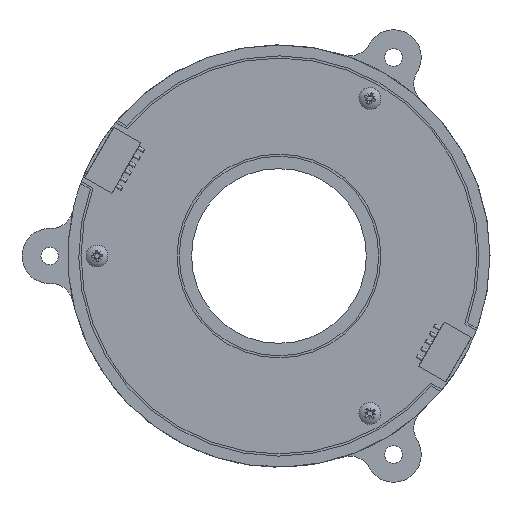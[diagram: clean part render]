
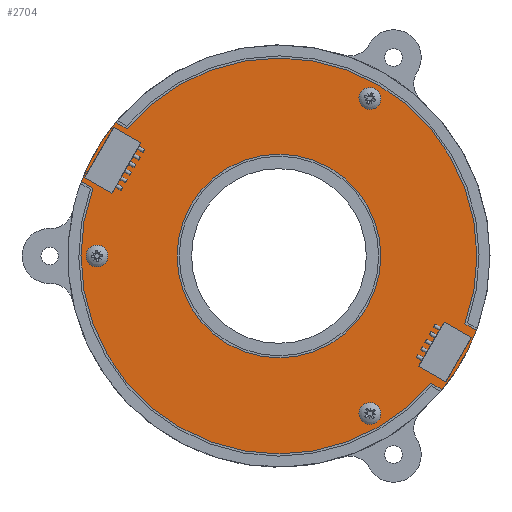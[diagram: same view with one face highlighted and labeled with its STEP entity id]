
A CAD part, left-side view. The second image highlights one B-rep face of the part: STEP entity #2704.
In plain terms, the highlighted planar face has unit normal (-1, 0, 0) as drawn and (0, 0, 1) by its records, which use the part's own axes.
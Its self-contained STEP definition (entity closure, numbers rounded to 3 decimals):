
#2704=ADVANCED_FACE('',(#14447,#14449,#14451,#14453,#14455),#14457,.T.);
#14447=FACE_BOUND('',#14448,.T.);
#14448=EDGE_LOOP('',(#24301,#24302,#24303,#24304,#24305,#24306,#24307,#24308));
#14449=FACE_BOUND('',#14450,.T.);
#14450=EDGE_LOOP('',(#24309));
#14451=FACE_BOUND('',#14452,.T.);
#14452=EDGE_LOOP('',(#24310));
#14453=FACE_BOUND('',#14454,.T.);
#14454=EDGE_LOOP('',(#24311));
#14455=FACE_BOUND('',#14456,.T.);
#14456=EDGE_LOOP('',(#24312));
#14457=PLANE('',#14458);
#14458=AXIS2_PLACEMENT_3D('',#14459,#14460,#14461);
#14459=CARTESIAN_POINT('',(0.,0.,1.6));
#14460=DIRECTION('',(0.,0.,1.));
#14461=DIRECTION('',(1.,0.,0.));
#24301=ORIENTED_EDGE('',*,*,#31301,.T.);
#24302=ORIENTED_EDGE('',*,*,#31303,.T.);
#24303=ORIENTED_EDGE('',*,*,#31304,.T.);
#24304=ORIENTED_EDGE('',*,*,#31305,.T.);
#24305=ORIENTED_EDGE('',*,*,#31306,.T.);
#24306=ORIENTED_EDGE('',*,*,#31307,.T.);
#24307=ORIENTED_EDGE('',*,*,#31308,.T.);
#24308=ORIENTED_EDGE('',*,*,#31309,.T.);
#24309=ORIENTED_EDGE('',*,*,#31310,.F.);
#24310=ORIENTED_EDGE('',*,*,#31311,.T.);
#24311=ORIENTED_EDGE('',*,*,#31312,.T.);
#24312=ORIENTED_EDGE('',*,*,#31313,.T.);
#31301=EDGE_CURVE('',#35401,#35399,#35402,.T.);
#31303=EDGE_CURVE('',#35399,#35404,#35405,.T.);
#31304=EDGE_CURVE('',#35404,#35406,#35407,.T.);
#31305=EDGE_CURVE('',#35406,#35408,#35409,.T.);
#31306=EDGE_CURVE('',#35408,#35410,#35411,.T.);
#31307=EDGE_CURVE('',#35410,#35412,#35413,.T.);
#31308=EDGE_CURVE('',#35412,#35414,#35415,.T.);
#31309=EDGE_CURVE('',#35414,#35401,#35416,.T.);
#31310=EDGE_CURVE('',#35417,#35417,#35418,.T.);
#31311=EDGE_CURVE('',#35419,#35419,#35420,.T.);
#31312=EDGE_CURVE('',#35421,#35421,#35422,.T.);
#31313=EDGE_CURVE('',#35423,#35423,#35424,.T.);
#35399=VERTEX_POINT('',#42814);
#35401=VERTEX_POINT('',#42818);
#35402=CIRCLE('',#42819,29.);
#35404=VERTEX_POINT('',#42826);
#35405=LINE('',#42827,#42828);
#35406=VERTEX_POINT('',#42830);
#35407=CIRCLE('',#42831,27.2);
#35408=VERTEX_POINT('',#42835);
#35409=LINE('',#42836,#42837);
#35410=VERTEX_POINT('',#42839);
#35411=CIRCLE('',#42840,29.);
#35412=VERTEX_POINT('',#42844);
#35413=LINE('',#42845,#42846);
#35414=VERTEX_POINT('',#42848);
#35415=CIRCLE('',#42849,27.2);
#35416=LINE('',#42853,#42854);
#35417=VERTEX_POINT('',#42856);
#35418=CIRCLE('',#42857,14.);
#35419=VERTEX_POINT('',#42861);
#35420=CIRCLE('',#42862,0.9);
#35421=VERTEX_POINT('',#42866);
#35422=CIRCLE('',#42867,0.9);
#35423=VERTEX_POINT('',#42871);
#35424=CIRCLE('',#42872,0.9);
#42814=CARTESIAN_POINT('',(28.617,4.7,1.6));
#42818=CARTESIAN_POINT('',(28.617,-4.7,1.6));
#42819=AXIS2_PLACEMENT_3D('',#42820,#42821,#42822);
#42820=CARTESIAN_POINT('',(0.,0.,1.6));
#42821=DIRECTION('',(0.,0.,1.));
#42822=DIRECTION('',(0.987,-0.162,0.));
#42826=CARTESIAN_POINT('',(26.791,4.7,1.6));
#42827=CARTESIAN_POINT('',(28.617,4.7,1.6));
#42828=VECTOR('',#42829,1.);
#42829=DIRECTION('',(-1.,0.,0.));
#42830=CARTESIAN_POINT('',(-26.791,4.7,1.6));
#42831=AXIS2_PLACEMENT_3D('',#42832,#42833,#42834);
#42832=CARTESIAN_POINT('',(0.,0.,1.6));
#42833=DIRECTION('',(0.,0.,1.));
#42834=DIRECTION('',(0.985,0.173,0.));
#42835=CARTESIAN_POINT('',(-28.617,4.7,1.6));
#42836=CARTESIAN_POINT('',(-26.791,4.7,1.6));
#42837=VECTOR('',#42838,1.);
#42838=DIRECTION('',(-1.,0.,0.));
#42839=CARTESIAN_POINT('',(-28.617,-4.7,1.6));
#42840=AXIS2_PLACEMENT_3D('',#42841,#42842,#42843);
#42841=CARTESIAN_POINT('',(0.,0.,1.6));
#42842=DIRECTION('',(0.,0.,1.));
#42843=DIRECTION('',(-0.987,0.162,0.));
#42844=CARTESIAN_POINT('',(-26.791,-4.7,1.6));
#42845=CARTESIAN_POINT('',(-28.617,-4.7,1.6));
#42846=VECTOR('',#42847,1.);
#42847=DIRECTION('',(1.,0.,0.));
#42848=CARTESIAN_POINT('',(26.791,-4.7,1.6));
#42849=AXIS2_PLACEMENT_3D('',#42850,#42851,#42852);
#42850=CARTESIAN_POINT('',(0.,0.,1.6));
#42851=DIRECTION('',(0.,0.,1.));
#42852=DIRECTION('',(-0.985,-0.173,0.));
#42853=CARTESIAN_POINT('',(26.791,-4.7,1.6));
#42854=VECTOR('',#42855,1.);
#42855=DIRECTION('',(1.,0.,0.));
#42856=CARTESIAN_POINT('',(14.,0.,1.6));
#42857=AXIS2_PLACEMENT_3D('',#42858,#42859,#42860);
#42858=CARTESIAN_POINT('',(0.,0.,1.6));
#42859=DIRECTION('',(0.,0.,1.));
#42860=DIRECTION('',(1.,0.,0.));
#42861=CARTESIAN_POINT('',(-0.9,-25.,1.6));
#42862=AXIS2_PLACEMENT_3D('',#42863,#42864,#42865);
#42863=CARTESIAN_POINT('',(0.,-25.,1.6));
#42864=DIRECTION('',(0.,0.,-1.));
#42865=DIRECTION('',(-1.,0.,0.));
#42866=CARTESIAN_POINT('',(20.751,12.5,1.6));
#42867=AXIS2_PLACEMENT_3D('',#42868,#42869,#42870);
#42868=CARTESIAN_POINT('',(21.651,12.5,1.6));
#42869=DIRECTION('',(0.,0.,-1.));
#42870=DIRECTION('',(-1.,0.,0.));
#42871=CARTESIAN_POINT('',(-22.551,12.5,1.6));
#42872=AXIS2_PLACEMENT_3D('',#42873,#42874,#42875);
#42873=CARTESIAN_POINT('',(-21.651,12.5,1.6));
#42874=DIRECTION('',(0.,0.,-1.));
#42875=DIRECTION('',(-1.,0.,0.));
